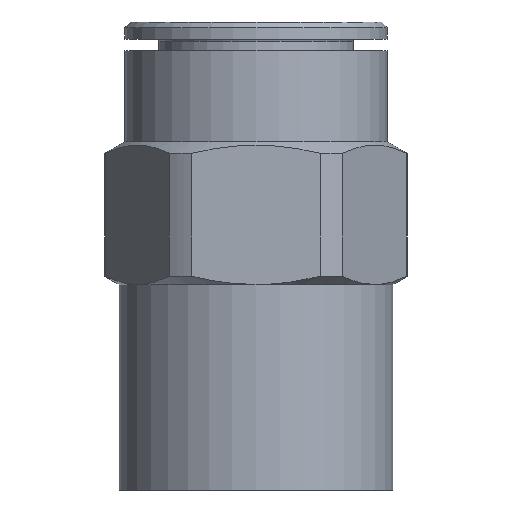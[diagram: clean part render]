
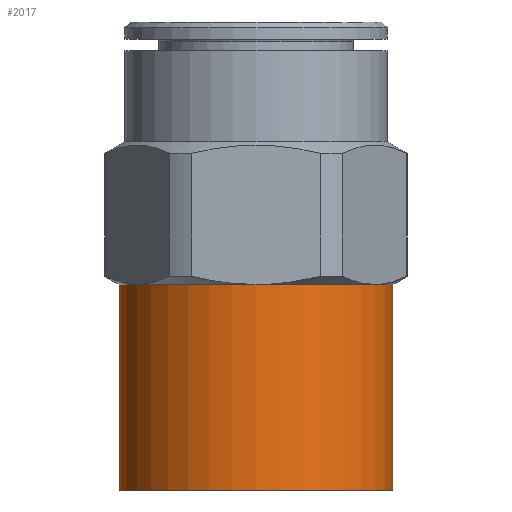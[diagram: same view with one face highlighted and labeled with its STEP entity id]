
A CAD part, front view. The second image highlights one B-rep face of the part: STEP entity #2017.
In plain terms, the highlighted cylindrical face has radius 12 mm (diameter 24 mm), a full revolution.
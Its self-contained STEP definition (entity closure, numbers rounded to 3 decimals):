
#892=CYLINDRICAL_SURFACE('',#1901,12.);
#939=ORIENTED_EDGE('',*,*,#1192,.F.);
#940=ORIENTED_EDGE('',*,*,#1193,.F.);
#941=ORIENTED_EDGE('',*,*,#1194,.F.);
#942=ORIENTED_EDGE('',*,*,#1195,.F.);
#943=ORIENTED_EDGE('',*,*,#1196,.F.);
#944=ORIENTED_EDGE('',*,*,#1197,.F.);
#945=ORIENTED_EDGE('',*,*,#1188,.F.);
#1078=CIRCLE('',#1897,12.);
#1080=CIRCLE('',#1902,12.);
#1081=CIRCLE('',#1903,12.);
#1082=CIRCLE('',#1904,12.);
#1083=CIRCLE('',#1905,12.);
#1084=CIRCLE('',#1906,12.);
#1085=CIRCLE('',#1907,12.);
#1127=VERTEX_POINT('',#1718);
#1128=VERTEX_POINT('',#1719);
#1131=VERTEX_POINT('',#1727);
#1132=VERTEX_POINT('',#1729);
#1133=VERTEX_POINT('',#1731);
#1134=VERTEX_POINT('',#1733);
#1135=VERTEX_POINT('',#1735);
#1188=EDGE_CURVE('',#1127,#1128,#1078,.T.);
#1192=EDGE_CURVE('',#1131,#1131,#1080,.T.);
#1193=EDGE_CURVE('',#1132,#1127,#1081,.T.);
#1194=EDGE_CURVE('',#1133,#1132,#1082,.T.);
#1195=EDGE_CURVE('',#1134,#1133,#1083,.T.);
#1196=EDGE_CURVE('',#1135,#1134,#1084,.T.);
#1197=EDGE_CURVE('',#1128,#1135,#1085,.T.);
#1283=EDGE_LOOP('',(#939));
#1284=EDGE_LOOP('',(#940,#941,#942,#943,#944,#945));
#1365=FACE_BOUND('',#1283,.T.);
#1366=FACE_BOUND('',#1284,.T.);
#1482=DIRECTION('',(0.,0.,1.));
#1483=DIRECTION('',(-12.,0.,0.));
#1490=DIRECTION('',(0.,0.,-1.));
#1491=DIRECTION('',(0.,-1.,0.));
#1492=DIRECTION('',(0.,0.,-1.));
#1493=DIRECTION('',(-12.,0.,0.));
#1494=DIRECTION('',(0.,0.,1.));
#1495=DIRECTION('',(-6.,10.392,0.));
#1496=DIRECTION('',(0.,0.,1.));
#1497=DIRECTION('',(6.,10.392,0.));
#1498=DIRECTION('',(0.,0.,1.));
#1499=DIRECTION('',(12.,0.,0.));
#1500=DIRECTION('',(0.,0.,1.));
#1501=DIRECTION('',(6.,-10.392,0.));
#1502=DIRECTION('',(0.,0.,1.));
#1503=DIRECTION('',(-6.,-10.392,0.));
#1718=CARTESIAN_POINT('',(-12.,0.,0.));
#1719=CARTESIAN_POINT('',(-6.,-10.392,0.));
#1720=CARTESIAN_POINT('',(0.,0.,0.));
#1726=CARTESIAN_POINT('',(0.,0.,0.));
#1727=CARTESIAN_POINT('',(-12.,0.,-18.));
#1728=CARTESIAN_POINT('',(0.,0.,-18.));
#1729=CARTESIAN_POINT('',(-6.,10.392,0.));
#1730=CARTESIAN_POINT('',(0.,0.,0.));
#1731=CARTESIAN_POINT('',(6.,10.392,0.));
#1732=CARTESIAN_POINT('',(0.,0.,0.));
#1733=CARTESIAN_POINT('',(12.,0.,0.));
#1734=CARTESIAN_POINT('',(0.,0.,0.));
#1735=CARTESIAN_POINT('',(6.,-10.392,0.));
#1736=CARTESIAN_POINT('',(0.,0.,0.));
#1737=CARTESIAN_POINT('',(0.,0.,0.));
#1897=AXIS2_PLACEMENT_3D('',#1720,#1482,#1483);
#1901=AXIS2_PLACEMENT_3D('',#1726,#1490,#1491);
#1902=AXIS2_PLACEMENT_3D('',#1728,#1492,#1493);
#1903=AXIS2_PLACEMENT_3D('',#1730,#1494,#1495);
#1904=AXIS2_PLACEMENT_3D('',#1732,#1496,#1497);
#1905=AXIS2_PLACEMENT_3D('',#1734,#1498,#1499);
#1906=AXIS2_PLACEMENT_3D('',#1736,#1500,#1501);
#1907=AXIS2_PLACEMENT_3D('',#1737,#1502,#1503);
#2017=ADVANCED_FACE('',(#1365,#1366),#892,.T.);
